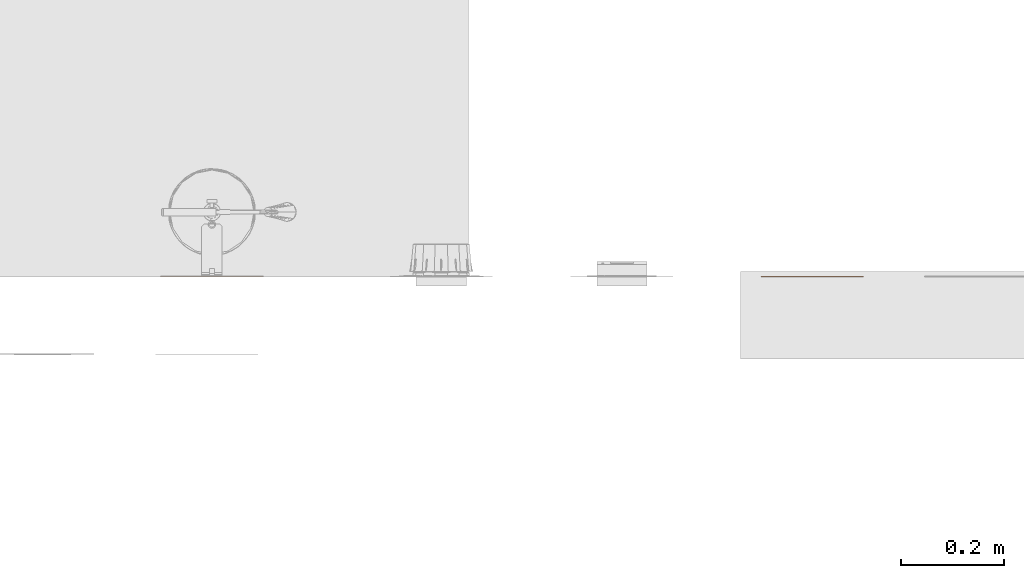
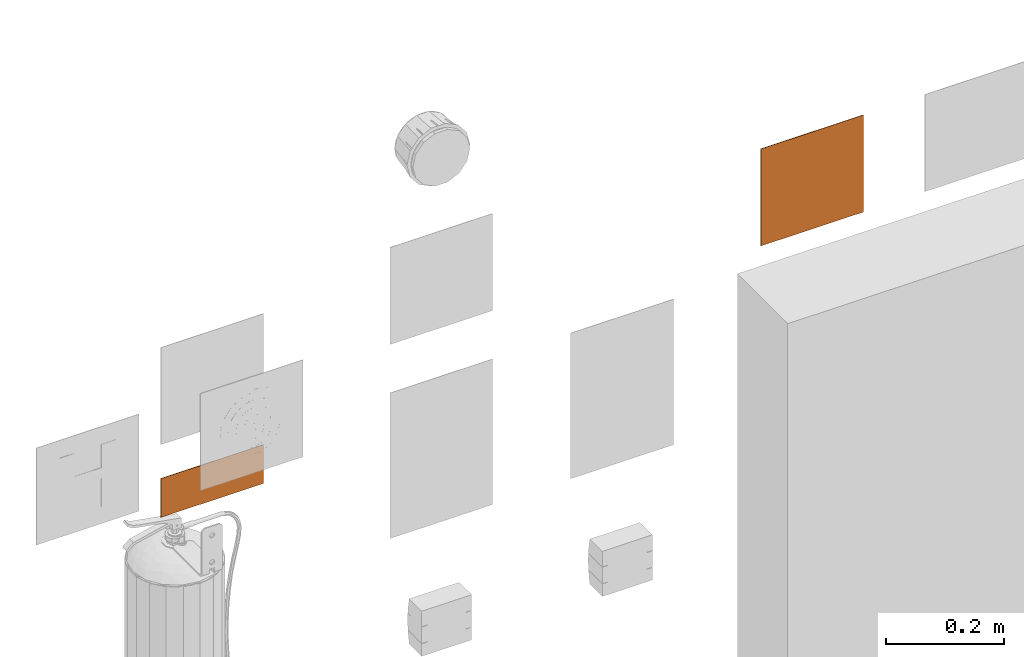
# One storey, part 42 of 119: 2 proxies.
"""IFC2X3 building model written with IfcOpenShell, lengths in metres."""

import ifcopenshell
import ifcopenshell.guid

model = None  # the IFC model being written
_history = None  # IfcOwnerHistory: only IFC2X3 demands one
_inside = {}  # id of a spatial element -> (the spatial element, [elements in it])
_under = {}  # id of a project, library or spatial element -> (it, [spatial elements below it])
_declared = {}  # id of a project -> (the project, [libraries it declares])
_typed = {}  # id of a type object -> (the type object, [elements of that type])
_made_of = {}  # id of a material, layer set ... -> (it, [elements and type objects made of it])


def new_model(schema):
    """Start an empty IFC model of exactly this schema.

    Asked for "IFC4X3", IfcOpenShell would pick the latest addendum, in which some entities
    have other attributes; the version numbers below select the first issue.
    IFC2X3 requires an IfcOwnerHistory on every rooted entity: one is made here for all.
    """
    global model, _history
    if schema == "IFC4X3":
        model = ifcopenshell.file(schema_version=(4, 3, 0, 0))
    else:
        model = ifcopenshell.file(schema=schema)
    _inside.clear()
    _under.clear()
    _declared.clear()
    _typed.clear()
    _made_of.clear()
    _history = None
    if model.schema == "IFC2X3":
        org = make("IfcOrganization", Name="unknown")
        user = make(
            "IfcPersonAndOrganization",
            ThePerson=make("IfcPerson", FamilyName="unknown"),
            TheOrganization=org,
        )
        app = make(
            "IfcApplication",
            ApplicationDeveloper=org,
            Version="unknown",
            ApplicationFullName="unknown",
            ApplicationIdentifier="unknown",
        )
        _history = make(
            "IfcOwnerHistory",
            OwningUser=user,
            OwningApplication=app,
            ChangeAction="ADDED",
            CreationDate=0,
        )
    return model


def make(cls, **values):
    """One entity of the class cls with the attributes given. An attribute that is None is left unset."""
    return model.create_entity(
        cls, **{name: value for name, value in values.items() if value is not None}
    )


def entity(cls, *values):
    """Any entity or typed value of the class cls, its attributes in the order of the schema. None: left unset."""
    e = model.create_entity(cls)
    for i, value in enumerate(values):
        if value is not None:
            e[i] = value
    return e


def rooted(cls, **values):
    """An entity with a GlobalId (a new one), such as an element, a storey or a relation."""
    return make(cls, GlobalId=ifcopenshell.guid.new(), OwnerHistory=_history, **values)


def si_unit(unit_type, name, prefix=None):
    """IfcSIUnit, for example si_unit("LENGTHUNIT", "METRE", prefix="MILLI")."""
    return make("IfcSIUnit", UnitType=unit_type, Prefix=prefix, Name=name)


def converted_unit(unit_type, name, factor, base, dimensions=None, offset=None):
    """IfcConversionBasedUnit, such as the inch: factor (a typed value) times the base unit."""
    return make(
        "IfcConversionBasedUnit"
        if offset is None
        else "IfcConversionBasedUnitWithOffset",
        ConversionOffset=offset,
        Dimensions=None
        if dimensions is None
        else entity("IfcDimensionalExponents", *dimensions),
        UnitType=unit_type,
        Name=name,
        ConversionFactor=make(
            "IfcMeasureWithUnit", ValueComponent=factor, UnitComponent=base
        ),
    )


def derived_unit(unit_type, elements):
    """IfcDerivedUnit: a product of units, each with its exponent."""
    return make(
        "IfcDerivedUnit",
        Elements=[
            make("IfcDerivedUnitElement", Unit=unit, Exponent=power)
            for unit, power in elements
        ],
        UnitType=unit_type,
    )


def assignment(units):
    """IfcUnitAssignment: the units of a project."""
    return None if units is None else make("IfcUnitAssignment", Units=units)


def point(xyz):
    """IfcCartesianPoint."""
    return None if xyz is None else make("IfcCartesianPoint", Coordinates=xyz)


def direction(xyz):
    """IfcDirection."""
    return None if xyz is None else make("IfcDirection", DirectionRatios=xyz)


def frame(location, z_axis=None, x_axis=None):
    """IfcAxis2Placement3D, a coordinate frame: its origin and axes. An axis left out is left unset."""
    return make(
        "IfcAxis2Placement3D",
        Location=point(location),
        Axis=direction(z_axis),
        RefDirection=direction(x_axis),
    )


def frame_2d(location, x_axis=None):
    """IfcAxis2Placement2D, a coordinate frame in the plane: its origin and x axis."""
    return make(
        "IfcAxis2Placement2D", Location=point(location), RefDirection=direction(x_axis)
    )


def origin():
    """The frame at (0, 0, 0) with its axes left unset."""
    return frame((0.0, 0.0, 0.0))


def origin_2d_with_axis():
    """The frame at (0, 0) in the plane with the x axis (1, 0) written out."""
    return frame_2d((0.0, 0.0), x_axis=(1.0, 0.0))


def place(relative_to, where):
    """IfcLocalPlacement: puts the frame where relative to a parent placement (None: the world)."""
    return make(
        "IfcLocalPlacement", PlacementRelTo=relative_to, RelativePlacement=where
    )


def context(
    kind, dimensions, precision=None, world=None, true_north=None, identifier=None
):
    """IfcGeometricRepresentationContext, for example the 3D "Model" context."""
    return make(
        "IfcGeometricRepresentationContext",
        ContextIdentifier=identifier,
        ContextType=kind,
        CoordinateSpaceDimension=dimensions,
        Precision=precision,
        WorldCoordinateSystem=world,
        TrueNorth=true_north,
    )


def subcontext(parent, identifier, kind, view, scale=None):
    """IfcGeometricRepresentationSubContext, for example "Body" below "Model"."""
    return make(
        "IfcGeometricRepresentationSubContext",
        ContextIdentifier=identifier,
        ContextType=kind,
        ParentContext=parent,
        TargetScale=scale,
        TargetView=view,
    )


def project(units=None, contexts=None):
    """IfcProject with its units and contexts."""
    return rooted(
        "IfcProject",
        Name="project",
        RepresentationContexts=contexts,
        UnitsInContext=assignment(units),
    )


def spatial(cls, under=None, at=None, **own):
    """A site, building, storey or space (cls), placed at a placement, below another one or the project."""
    s = rooted(cls, ObjectPlacement=at, **own)
    if under is not None:
        _under.setdefault(under.id(), (under, []))[1].append(s)
    return s


def polyline(points):
    """IfcPolyline through the points."""
    return make("IfcPolyline", Points=[point(p) for p in points])


def circle_curve(where, radius):
    """IfcCircle in the frame where."""
    return make("IfcCircle", Position=where, Radius=radius)


def parameter(value):
    """IfcParameterValue: where a trimmed curve begins or ends, as a parameter of its basis curve."""
    return model.create_entity("IfcParameterValue", value)


def trimmed(basis, trim1, trim2, sense, master):
    """IfcTrimmedCurve: the piece of a basis curve between two trims."""
    return make(
        "IfcTrimmedCurve",
        BasisCurve=basis,
        Trim1=trim1,
        Trim2=trim2,
        SenseAgreement=sense,
        MasterRepresentation=master,
    )


def segment(curve, same_sense, transition):
    """IfcCompositeCurveSegment."""
    return make(
        "IfcCompositeCurveSegment",
        Transition=transition,
        SameSense=same_sense,
        ParentCurve=curve,
    )


def composite_curve(segments, self_intersect=None):
    """IfcCompositeCurve: segments joined end to end."""
    return make("IfcCompositeCurve", Segments=segments, SelfIntersect=self_intersect)


def profile(cls, at=None, kind="AREA", **sizes):
    """A parametric profile (cls). Its sizes go by their IFC names, for example OverallWidth=200.0."""
    return make(cls, ProfileType=kind, Position=at, **sizes)


def rectangle(**sizes):
    """IfcRectangleProfileDef."""
    return profile("IfcRectangleProfileDef", **sizes)


def outline(outer, holes=None, kind="AREA"):
    """IfcArbitraryClosedProfileDef: a profile drawn as a closed curve; with holes, ...WithVoids."""
    if holes is None:
        return make("IfcArbitraryClosedProfileDef", ProfileType=kind, OuterCurve=outer)
    return make(
        "IfcArbitraryProfileDefWithVoids",
        ProfileType=kind,
        OuterCurve=outer,
        InnerCurves=holes,
    )


def extrude(swept, where, along, depth):
    """IfcExtrudedAreaSolid: the profile swept, set in the frame where, extruded along a direction by depth."""
    return make(
        "IfcExtrudedAreaSolid",
        SweptArea=swept,
        Position=where,
        ExtrudedDirection=direction(along),
        Depth=depth,
    )


def shape(context_of_items, identifier, shape_type, items):
    """IfcShapeRepresentation: the items that make up one representation, for example the "Body"."""
    return make(
        "IfcShapeRepresentation",
        ContextOfItems=context_of_items,
        RepresentationIdentifier=identifier,
        RepresentationType=shape_type,
        Items=items,
    )


def source(mapping_origin, context_of_items, identifier, shape_type, items):
    """IfcRepresentationMap: a shape defined once, which mapped items show again and again."""
    return make(
        "IfcRepresentationMap",
        MappingOrigin=mapping_origin,
        MappedRepresentation=shape(context_of_items, identifier, shape_type, items),
    )


def transform(
    local_origin,
    x_axis=None,
    y_axis=None,
    z_axis=None,
    scale=None,
    scale2=None,
    scale3=None,
    uniform=True,
):
    """IfcCartesianTransformationOperator3D, or its non-uniform kind. x_axis, y_axis, z_axis: its Axis1, 2, 3."""
    if uniform:
        return make(
            "IfcCartesianTransformationOperator3D",
            Axis1=direction(x_axis),
            Axis2=direction(y_axis),
            LocalOrigin=point(local_origin),
            Scale=scale,
            Axis3=direction(z_axis),
        )
    return make(
        "IfcCartesianTransformationOperator3DnonUniform",
        Axis1=direction(x_axis),
        Axis2=direction(y_axis),
        LocalOrigin=point(local_origin),
        Scale=scale,
        Axis3=direction(z_axis),
        Scale2=scale2,
        Scale3=scale3,
    )


def mapped(mapping_source, mapping_target):
    """IfcMappedItem: shows the shape of a source again, moved by a transform."""
    return make(
        "IfcMappedItem", MappingSource=mapping_source, MappingTarget=mapping_target
    )


def material(Name=None, Category=None):
    """IfcMaterial."""
    return make("IfcMaterial", Name=Name, Category=Category)


def material_list(materials):
    """IfcMaterialList."""
    return make("IfcMaterialList", Materials=materials)


def made_of(thing, what):
    """Note that an element or type object is made of a material, layer set ...; save() writes the relation."""
    if what is not None:
        _made_of.setdefault(what.id(), (what, []))[1].append(thing)
    return thing


def type_object(cls, material=None, **own):
    """A type object (cls), such as IfcWallType, which elements share."""
    return made_of(rooted(cls, **own), material)


def type_shapes(of_type, sources):
    """Give a type object the sources (RepresentationMaps) that its elements show as mapped items."""
    of_type.RepresentationMaps = sources


def element(
    cls,
    number,
    at=None,
    inside=None,
    cuts=None,
    type_object=None,
    material=None,
    context=None,
    identifier="Body",
    shape_type=None,
    held_by="IfcProductDefinitionShape",
    body=None,
    shapes=None,
    **own,
):
    """One element of the class cls, such as IfcWall. Its Tag is "e" and its number.

    at: its placement. inside: the storey or other place that contains it. cuts: it is an
    opening in that element (IfcRelVoidsElement). A single representation is given by context,
    identifier, shape_type and body (its items); several are given by shapes. held_by: the class
    of the entity that holds the representations. save() writes the other relations.
    """
    e = rooted(cls, Tag="e%d" % number, ObjectPlacement=at, **own)
    if body is not None:
        shapes = [shape(context, identifier, shape_type, body)]
    if shapes is not None:
        e.Representation = make(held_by, Representations=shapes)
    if inside is not None:
        _inside.setdefault(inside.id(), (inside, []))[1].append(e)
    if cuts is not None:
        rooted(
            "IfcRelVoidsElement", RelatingBuildingElement=cuts, RelatedOpeningElement=e
        )
    if type_object is not None:
        _typed.setdefault(type_object.id(), (type_object, []))[1].append(e)
    return made_of(e, material)


def aggregate(whole, parts):
    """IfcRelAggregates: a whole, such as a stair, and the parts it consists of."""
    return rooted("IfcRelAggregates", RelatingObject=whole, RelatedObjects=parts)


def save(model, path):
    """Write the relations noted so far, then the file.

    IfcRelAggregates (storeys below a building ...), IfcRelContainedInSpatialStructure (elements
    in a storey), IfcRelDefinesByType, IfcRelAssociatesMaterial and IfcRelDeclares: one each for
    every whole, place, type object, material and project.
    """
    for whole, parts in _under.values():
        aggregate(whole, parts)
    for where, things in _inside.values():
        rooted(
            "IfcRelContainedInSpatialStructure",
            RelatedElements=things,
            RelatingStructure=where,
        )
    for kind, things in _typed.values():
        rooted("IfcRelDefinesByType", RelatedObjects=things, RelatingType=kind)
    for what, things in _made_of.values():
        rooted("IfcRelAssociatesMaterial", RelatedObjects=things, RelatingMaterial=what)
    for by, libraries in _declared.values():
        rooted("IfcRelDeclares", RelatingContext=by, RelatedDefinitions=libraries)
    model.write(path)


model = new_model("IFC2X3")

# Units and contexts
model_context = context("Model", 3, precision=1e-05, world=origin(), true_north=direction((6.12303176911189e-17, 1.0)))
body_context = subcontext(model_context, "Body", "Model", "MODEL_VIEW")
ifc_project = project(units=[si_unit("LENGTHUNIT", "METRE"), si_unit("AREAUNIT", "SQUARE_METRE"), si_unit("VOLUMEUNIT", "CUBIC_METRE"), converted_unit("PLANEANGLEUNIT", "DEGREE", entity("IfcRatioMeasure", 0.0174532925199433), si_unit("PLANEANGLEUNIT", "RADIAN"), dimensions=[0, 0, 0, 0, 0, 0, 0]), si_unit("MASSUNIT", "GRAM", prefix="KILO"), derived_unit("MASSDENSITYUNIT", [(si_unit("MASSUNIT", "GRAM", prefix="KILO"), 1), (si_unit("LENGTHUNIT", "METRE"), -3)]), derived_unit("MOMENTOFINERTIAUNIT", [(si_unit("LENGTHUNIT", "METRE"), 4)]), si_unit("TIMEUNIT", "SECOND"), si_unit("FREQUENCYUNIT", "HERTZ"), si_unit("THERMODYNAMICTEMPERATUREUNIT", "DEGREE_CELSIUS"), derived_unit("THERMALTRANSMITTANCEUNIT", [(si_unit("MASSUNIT", "GRAM", prefix="KILO"), 1), (si_unit("THERMODYNAMICTEMPERATUREUNIT", "KELVIN"), -1), (si_unit("TIMEUNIT", "SECOND"), -3)]), derived_unit("VOLUMETRICFLOWRATEUNIT", [(si_unit("LENGTHUNIT", "METRE"), 3), (si_unit("TIMEUNIT", "SECOND"), -1)]), si_unit("ELECTRICCURRENTUNIT", "AMPERE"), si_unit("ELECTRICVOLTAGEUNIT", "VOLT"), si_unit("POWERUNIT", "WATT"), si_unit("FORCEUNIT", "NEWTON", prefix="KILO"), si_unit("ILLUMINANCEUNIT", "LUX"), si_unit("LUMINOUSFLUXUNIT", "LUMEN"), si_unit("LUMINOUSINTENSITYUNIT", "CANDELA"), derived_unit("USERDEFINED", [(si_unit("MASSUNIT", "GRAM", prefix="KILO"), -1), (si_unit("LENGTHUNIT", "METRE"), -2), (si_unit("TIMEUNIT", "SECOND"), 3), (si_unit("LUMINOUSFLUXUNIT", "LUMEN"), 1)]), derived_unit("LINEARVELOCITYUNIT", [(si_unit("LENGTHUNIT", "METRE"), 1), (si_unit("TIMEUNIT", "SECOND"), -1)]), si_unit("PRESSUREUNIT", "PASCAL"), derived_unit("USERDEFINED", [(si_unit("LENGTHUNIT", "METRE"), -2), (si_unit("MASSUNIT", "GRAM", prefix="KILO"), 1), (si_unit("TIMEUNIT", "SECOND"), -2)]), derived_unit("LINEARFORCEUNIT", [(si_unit("MASSUNIT", "GRAM", prefix="KILO"), 1), (si_unit("LENGTHUNIT", "METRE"), 1), (si_unit("TIMEUNIT", "SECOND"), -2), (si_unit("LENGTHUNIT", "METRE"), -1)]), derived_unit("PLANARFORCEUNIT", [(si_unit("MASSUNIT", "GRAM", prefix="KILO"), 1), (si_unit("LENGTHUNIT", "METRE"), 1), (si_unit("TIMEUNIT", "SECOND"), -2), (si_unit("LENGTHUNIT", "METRE"), -2)])], contexts=[model_context])

# Site, building, storey
site_placement = place(None, origin())
site = spatial("IfcSite", under=ifc_project, at=site_placement, Name="Default", CompositionType="ELEMENT")
building_placement = place(site_placement, origin())
building = spatial("IfcBuilding", under=site, at=building_placement, CompositionType="ELEMENT")
storey_placement = place(building_placement, origin())
storey = spatial("IfcBuildingStorey", under=building, at=storey_placement, Name="PAV. 01 - TÉRREO", CompositionType="ELEMENT", Elevation=0.0)

# Proxies
ifc_material_1 = material(Name="Plastico Preto")
ifc_material_2 = material(Name="Plastico azul claro")
ifc_material_3 = material(Name="Plastico vermelho")
ifc_material_4 = material(Name="Plastico branco")
ifc_material_5 = material(Name="Plastico Verde")
ifc_material_list_1 = material_list([ifc_material_1, ifc_material_2, ifc_material_3, ifc_material_4, ifc_material_5])
building_element_proxy_type_1 = type_object("IfcBuildingElementProxyType", Name="Sinalização de equipamentos - E05 - Extintor de incêndio - TIPO 2:Placa de extintor - E6-A", PredefinedType="NOTDEFINED", material=ifc_material_1)
shared_shape_1 = source(origin(), body_context, "Body", "SweptSolid", [
    extrude(rectangle(XDim=0.001, YDim=0.0243464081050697, at=origin_2d_with_axis()), frame((0.0791678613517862, -0.0005, 0.0143679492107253), z_axis=(0.0, 0.0, 1.0), x_axis=(0.0, 1.0, 0.0)), (0.0, 0.0, 1.0), 0.0243153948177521),
    extrude(rectangle(XDim=0.001, YDim=0.0243464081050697, at=origin_2d_with_axis()), frame((0.0514092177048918, -0.0005, 0.0143679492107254), z_axis=(0.0, 0.0, 1.0), x_axis=(0.0, 1.0, 0.0)), (0.0, 0.0, 1.0), 0.0243153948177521),
    extrude(rectangle(XDim=0.001, YDim=0.0243464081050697, at=origin_2d_with_axis()), frame((0.023605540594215, -0.0005, 0.0143679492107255), z_axis=(0.0, 0.0, 1.0), x_axis=(0.0, 1.0, 0.0)), (0.0, 0.0, 1.0), 0.0243153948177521),
    extrude(rectangle(XDim=0.001, YDim=0.0243464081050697, at=origin_2d_with_axis()), frame((-0.00415310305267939, -0.0005, 0.0143679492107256), z_axis=(0.0, 0.0, 1.0), x_axis=(0.0, 1.0, 0.0)), (0.0, 0.0, 1.0), 0.0243153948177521),
    extrude(outline(polyline([(-0.0399999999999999, -0.1), (0.0399999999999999, -0.1), (0.0399999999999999, 0.1), (-0.0399999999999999, 0.1), (-0.0399999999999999, -0.1)]), holes=[polyline([(-0.0319999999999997, 0.091), (-0.0150022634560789, 0.091), (-0.0150022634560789, -0.091), (-0.0319999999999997, -0.091), (-0.0319999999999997, 0.091)]), polyline([(-0.010791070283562, 0.091), (0.0319999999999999, 0.091), (0.0319999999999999, 0.0473282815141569), (-0.010791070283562, 0.0473282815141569), (-0.010791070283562, 0.091)]), polyline([(0.00131665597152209, 0.0441091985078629), (0.0256320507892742, 0.0441091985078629), (0.0256320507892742, 0.0197627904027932), (0.00131665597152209, 0.0197627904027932), (0.00131665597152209, 0.0441091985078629)]), polyline([(0.00131665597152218, 0.0163263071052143), (0.0256320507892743, 0.0163263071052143), (0.0256320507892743, -0.00802010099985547), (0.00131665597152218, -0.00802010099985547), (0.00131665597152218, 0.0163263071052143)]), polyline([(0.00131665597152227, -0.0114323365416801), (0.0256320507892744, -0.0114323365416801), (0.0256320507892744, -0.0357787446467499), (0.00131665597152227, -0.0357787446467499), (0.00131665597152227, -0.0114323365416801)]), polyline([(0.00131665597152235, -0.0635824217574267), (0.00131665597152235, -0.039236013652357), (0.0256320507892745, -0.039236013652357), (0.0256320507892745, -0.0635824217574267), (0.00131665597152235, -0.0635824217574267)]), polyline([(0.00131665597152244, -0.0669946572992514), (0.0256320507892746, -0.0669946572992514), (0.0256320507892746, -0.091), (0.00131665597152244, -0.091), (0.00131665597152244, -0.0669946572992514)])]), frame((0.0, -0.001, 0.0399999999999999), z_axis=(0.0, 1.0, 0.0), x_axis=(0.0, 0.0, -1.0)), (0.0, 0.0, 1.0), 0.001),
    extrude(outline(composite_curve([segment(trimmed(circle_curve(frame_2d((-0.00182713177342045, 0.0030692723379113), x_axis=(1.0, 0.0)), 0.00333179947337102), [parameter(180.0)], [parameter(270.0)], True, "PARAMETER"), True, "CONTINUOUS"), segment(polyline([(-0.00182713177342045, -0.000262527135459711), (-0.000430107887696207, -0.000262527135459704)]), True, "CONTINUOUS"), segment(polyline([(-0.000430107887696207, -0.000262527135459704), (-0.000430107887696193, -0.00350797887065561)]), True, "CONTINUOUS"), segment(polyline([(-0.000430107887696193, -0.00350797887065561), (-0.00249820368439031, -0.00350797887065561)]), True, "CONTINUOUS"), segment(polyline([(-0.00249820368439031, -0.00350797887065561), (-0.00742535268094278, 7.18044171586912e-05)]), True, "CONTINUOUS"), segment(polyline([(-0.00742535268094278, 7.18044171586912e-05), (-0.00742535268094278, 0.00166630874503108)]), True, "CONTINUOUS"), segment(polyline([(-0.00742535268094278, 0.00166630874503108), (-0.00871124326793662, 0.00166630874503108)]), True, "CONTINUOUS"), segment(polyline([(-0.00871124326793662, 0.00166630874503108), (-0.00846384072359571, -0.00134355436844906)]), True, "CONTINUOUS"), segment(trimmed(circle_curve(frame_2d((-0.00608099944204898, -0.00114769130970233), x_axis=(1.0, 0.0)), 0.00239087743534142), [parameter(184.698993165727)], [parameter(232.0)], True, "PARAMETER"), True, "CONTINUOUS"), segment(polyline([(-0.00755297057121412, -0.00303172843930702), (-0.0030496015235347, -0.00655014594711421)]), True, "CONTINUOUS"), segment(polyline([(-0.0030496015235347, -0.00655014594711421), (-0.000124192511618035, -0.00655014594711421)]), True, "CONTINUOUS"), segment(polyline([(-0.000124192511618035, -0.00655014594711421), (-0.000124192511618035, -0.00788602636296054)]), True, "CONTINUOUS"), segment(polyline([(-0.000124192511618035, -0.00788602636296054), (0.003207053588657, -0.00788602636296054)]), True, "CONTINUOUS"), segment(polyline([(0.003207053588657, -0.00788602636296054), (0.003207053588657, -0.00698801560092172)]), True, "CONTINUOUS"), segment(polyline([(0.003207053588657, -0.00698801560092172), (0.00540783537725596, -0.00698801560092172)]), True, "CONTINUOUS"), segment(polyline([(0.00540783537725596, -0.00698801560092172), (0.00665542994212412, -0.00574042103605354)]), True, "CONTINUOUS"), segment(polyline([(0.00665542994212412, -0.00574042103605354), (0.00665542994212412, -0.00450724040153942)]), True, "CONTINUOUS"), segment(polyline([(0.00665542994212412, -0.00450724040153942), (0.00491919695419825, -0.00324579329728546)]), True, "CONTINUOUS"), segment(polyline([(0.00491919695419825, -0.00324579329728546), (0.00355615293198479, -0.00324579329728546)]), True, "CONTINUOUS"), segment(polyline([(0.00355615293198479, -0.00324579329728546), (0.00355615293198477, -0.000262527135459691)]), True, "CONTINUOUS"), segment(polyline([(0.00355615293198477, -0.000262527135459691), (0.00500257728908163, -0.000262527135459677)]), True, "CONTINUOUS"), segment(trimmed(circle_curve(frame_2d((0.00500257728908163, 0.00284153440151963), x_axis=(1.0, 0.0)), 0.00310406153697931), [parameter(270.0)], [parameter(1.52666624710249e-13)], True, "PARAMETER"), True, "CONTINUOUS"), segment(polyline([(0.00810663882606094, 0.00284153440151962), (0.0081066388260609, 0.0313568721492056)]), True, "CONTINUOUS"), segment(polyline([(0.0081066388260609, 0.0313568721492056), (-0.00515893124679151, 0.0313568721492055)]), True, "CONTINUOUS"), segment(polyline([(-0.00515893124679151, 0.0313568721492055), (-0.00515893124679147, 0.00306927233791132)]), True, "CONTINUOUS")], self_intersect=False)), frame((-0.0705753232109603, -0.001, 0.0413479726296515), z_axis=(0.0, 1.0, 0.0), x_axis=(1.0, 0.0, 0.0)), (0.0, 0.0, 1.0), 0.001),
    extrude(rectangle(XDim=0.001, YDim=0.0243464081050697, at=origin_2d_with_axis()), frame((-0.0319359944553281, -0.0005, 0.0143679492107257), z_axis=(0.0, 0.0, 1.0), x_axis=(0.0, 1.0, 0.0)), (0.0, 0.0, 1.0), 0.0243153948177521),
    extrude(outline(polyline([(-0.0218358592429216, -0.021395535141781), (0.0218358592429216, -0.021395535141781), (0.0218358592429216, 0.021395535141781), (-0.0218358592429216, 0.021395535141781), (-0.0218358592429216, -0.021395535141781)]), holes=[composite_curve([segment(polyline([(-0.00669545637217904, -0.0194044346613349), (-0.00669545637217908, 0.00911090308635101)]), True, "CONTINUOUS"), segment(trimmed(circle_curve(frame_2d((-0.00359139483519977, 0.00911090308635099), x_axis=(-1.0, 0.0)), 0.00310406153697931), [parameter(270.0)], [parameter(360.0)], True, "PARAMETER"), False, "CONTINUOUS"), segment(polyline([(-0.0035913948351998, 0.0122149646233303), (-0.00214497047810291, 0.0122149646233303)]), True, "CONTINUOUS"), segment(polyline([(-0.00214497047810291, 0.0122149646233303), (-0.00214497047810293, 0.0151982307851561)]), True, "CONTINUOUS"), segment(polyline([(-0.00214497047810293, 0.0151982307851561), (-0.0035080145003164, 0.0151982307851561)]), True, "CONTINUOUS"), segment(polyline([(-0.0035080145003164, 0.0151982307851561), (-0.00524424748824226, 0.01645967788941)]), True, "CONTINUOUS"), segment(polyline([(-0.00524424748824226, 0.01645967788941), (-0.00524424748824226, 0.0176928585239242)]), True, "CONTINUOUS"), segment(polyline([(-0.00524424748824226, 0.0176928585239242), (-0.0039966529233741, 0.0189404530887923)]), True, "CONTINUOUS"), segment(polyline([(-0.0039966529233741, 0.0189404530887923), (-0.00179587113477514, 0.0189404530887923)]), True, "CONTINUOUS"), segment(polyline([(-0.00179587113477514, 0.0189404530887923), (-0.00179587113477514, 0.0198384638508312)]), True, "CONTINUOUS"), segment(polyline([(-0.00179587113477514, 0.0198384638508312), (0.00153537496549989, 0.0198384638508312)]), True, "CONTINUOUS"), segment(polyline([(0.00153537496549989, 0.0198384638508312), (0.00153537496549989, 0.0185025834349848)]), True, "CONTINUOUS"), segment(polyline([(0.00153537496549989, 0.0185025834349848), (0.00446078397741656, 0.0185025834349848)]), True, "CONTINUOUS"), segment(polyline([(0.00446078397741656, 0.0185025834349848), (0.00896415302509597, 0.0149841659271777)]), True, "CONTINUOUS"), segment(trimmed(circle_curve(frame_2d((0.00749218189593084, 0.0131001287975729), x_axis=(-1.0, 0.0)), 0.00239087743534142), [parameter(184.698993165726)], [parameter(231.999999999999)], True, "PARAMETER"), False, "CONTINUOUS"), segment(polyline([(0.00987502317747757, 0.0132959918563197), (0.0101224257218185, 0.0102861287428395)]), True, "CONTINUOUS"), segment(polyline([(0.0101224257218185, 0.0102861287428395), (0.00883653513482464, 0.0102861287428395)]), True, "CONTINUOUS"), segment(polyline([(0.00883653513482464, 0.0102861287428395), (0.00883653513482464, 0.0118806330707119)]), True, "CONTINUOUS"), segment(polyline([(0.00883653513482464, 0.0118806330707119), (0.00390938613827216, 0.0154604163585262)]), True, "CONTINUOUS"), segment(polyline([(0.00390938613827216, 0.0154604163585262), (0.00184129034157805, 0.0154604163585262)]), True, "CONTINUOUS"), segment(polyline([(0.00184129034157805, 0.0154604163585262), (0.00184129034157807, 0.0122149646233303)]), True, "CONTINUOUS"), segment(polyline([(0.00184129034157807, 0.0122149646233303), (0.00323831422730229, 0.0122149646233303)]), True, "CONTINUOUS"), segment(trimmed(circle_curve(frame_2d((0.00323831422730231, 0.00888316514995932), x_axis=(-1.0, 0.0)), 0.00333179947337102), [parameter(180.0)], [parameter(270.0)], True, "PARAMETER"), False, "CONTINUOUS"), segment(polyline([(0.00657011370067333, 0.00888316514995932), (0.00657011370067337, -0.0194044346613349)]), True, "CONTINUOUS"), segment(polyline([(0.00657011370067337, -0.0194044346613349), (-0.00669545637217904, -0.0194044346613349)]), True, "CONTINUOUS")], self_intersect=False)]), frame((-0.0691641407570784, -0.001, 0.0293955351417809), z_axis=(0.0, 1.0, 0.0), x_axis=(-1.0, 0.0, 0.0)), (0.0, 0.0, 1.0), 0.001),
    extrude(rectangle(XDim=0.001, YDim=0.182, at=origin_2d_with_axis()), frame((0.0, -0.0005, 0.0550022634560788), z_axis=(0.0, 0.0, 1.0), x_axis=(0.0, 1.0, 0.0)), (0.0, 0.0, 1.0), 0.0169977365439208),
])
type_shapes(building_element_proxy_type_1, [shared_shape_1])
proxy_1_placement = place(storey_placement, frame((26.0441407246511, -5.41661806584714, 1.65), z_axis=(0.0, 0.0, 1.0), x_axis=(-1.0, 0.0, 0.0)))
element("IfcBuildingElementProxy", 1, at=proxy_1_placement, inside=storey, type_object=building_element_proxy_type_1, material=ifc_material_list_1, Name="Sinalização de equipamentos - E05 - Extintor de incêndio - TIPO 2:Placa de extintor - E6-A", ObjectType="Sinalização de equipamentos - E05 - Extintor de incêndio - TIPO 2:Placa de extintor - E6-A", context=body_context, shape_type="MappedRepresentation", body=[
    mapped(shared_shape_1, transform((0.0, 0.0, 0.0), scale=1.0)),
])
ifc_material_list_2 = material_list([ifc_material_4, ifc_material_3])
building_element_proxy_type_2 = type_object("IfcBuildingElementProxyType", Name="Sinalização de equipamentos - E07 - Abrigo de mangueira e hidrante:Distância 08m", PredefinedType="NOTDEFINED", material=ifc_material_4)
shared_shape_2 = source(origin(), body_context, "Body", "SweptSolid", [
    extrude(outline(polyline([(-0.00690786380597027, -0.0122995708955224), (0.00711825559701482, -0.0122995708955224), (0.00711825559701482, -0.00743718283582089), (0.00262989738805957, -0.00743718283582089), (0.00596944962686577, 0.0271739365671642), (-0.00581249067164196, 0.0271739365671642), (-0.00320763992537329, -0.00743718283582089), (-0.00690786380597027, -0.00743718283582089), (-0.00690786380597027, -0.0122995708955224)])), frame((0.0421885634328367, -0.0011, 1.96326280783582), z_axis=(0.0, 1.0, 0.0), x_axis=(0.0, 0.0, -1.0)), (0.0, 0.0, 1.0), 0.0011),
    extrude(outline(polyline([(-0.0100749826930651, 0.0564373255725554), (0.000130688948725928, 0.0564373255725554), (0.000130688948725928, 0.0615935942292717), (0.0111390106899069, 0.0603672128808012), (0.0215236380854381, 0.0569157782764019), (0.0310659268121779, 0.0514698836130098), (0.039547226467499, 0.044260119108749), (0.0467232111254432, 0.0355044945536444), (0.0522652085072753, 0.0253796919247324), (0.0558272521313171, 0.0140539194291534), (0.0570633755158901, 0.00169538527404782), (0.0559544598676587, -0.0103529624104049), (0.0527167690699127, -0.021677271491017), (0.0475402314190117, -0.0320063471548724), (0.0406147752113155, -0.0410689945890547), (0.0321303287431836, -0.0485940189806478), (0.0222768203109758, -0.054310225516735), (0.0112441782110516, -0.0579464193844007), (-0.000777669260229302, -0.0592314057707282), (-0.0112144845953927, -0.0581339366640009), (-0.0207847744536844, -0.0549992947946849), (-0.0293267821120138, -0.0500696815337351), (-0.0366787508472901, -0.0435872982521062), (-0.0426789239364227, -0.0357943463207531), (-0.0471655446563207, -0.0269330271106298), (-0.0499768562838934, -0.0172455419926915), (-0.0509511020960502, -0.00697409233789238), (-0.0503267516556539, 0.00214397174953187), (-0.0485509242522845, 0.0101046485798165), (-0.0457766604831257, 0.0170464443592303), (-0.042157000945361, 0.0231078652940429), (-0.0378449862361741, 0.0284274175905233), (-0.0329915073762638, 0.0331411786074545), (-0.0276526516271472, 0.0372781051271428), (-0.0217544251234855, 0.0407201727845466), (-0.0152134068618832, 0.0433387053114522), (-0.00794617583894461, 0.0450050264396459), (0.000130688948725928, 0.0455904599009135), (0.0081536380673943, 0.04465447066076), (0.0157133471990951, 0.0420982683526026), (0.0226512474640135, 0.0380908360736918), (0.0288087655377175, 0.0328011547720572), (0.034008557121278, 0.0263891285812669), (0.0380116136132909, 0.0189848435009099), (0.0405662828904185, 0.0107122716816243), (0.041420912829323, 0.00169538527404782), (0.0406481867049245, -0.00714065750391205), (0.0383124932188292, -0.015453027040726), (0.0345521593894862, -0.0230422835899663), (0.0295055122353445, -0.0297089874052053), (0.023310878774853, -0.0352536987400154), (0.0161065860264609, -0.0394769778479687), (0.0080309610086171, -0.0421793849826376), (-0.000777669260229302, -0.043161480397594), (-0.00799025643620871, -0.0423890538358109), (-0.014601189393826, -0.0402096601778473), (-0.0204989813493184, -0.0367909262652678), (-0.0255721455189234, -0.0323004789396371), (-0.0297091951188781, -0.0269059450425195), (-0.03279864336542, -0.0207749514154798), (-0.0347290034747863, -0.0140751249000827), (-0.0353887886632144, -0.00697409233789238), (-0.0349404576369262, -0.000650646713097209), (-0.0336953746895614, 0.00486808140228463), (-0.0317594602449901, 0.00967841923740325), (-0.0292386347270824, 0.0138766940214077), (-0.0262388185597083, 0.0175592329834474), (-0.0228644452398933, 0.0208206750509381), (-0.0191543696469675, 0.02368119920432), (-0.015057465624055, 0.0260588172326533), (-0.0105160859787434, 0.02786413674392), (-0.00547258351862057, 0.0290077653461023), (0.000130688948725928, 0.0294003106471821), (0.00520279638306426, 0.0288165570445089), (0.00998368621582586, 0.027208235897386), (0.0143729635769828, 0.0246820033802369), (0.018270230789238, 0.0213445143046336), (0.0215632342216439, 0.0172966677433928), (0.0241007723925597, 0.012620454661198), (0.02572365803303, 0.00739398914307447), (0.0262727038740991, 0.00169538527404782), (0.0257957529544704, -0.0039920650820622), (0.0243118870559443, -0.00934613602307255), (0.0219096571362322, -0.0142381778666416), (0.0186776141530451, -0.0185395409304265), (0.0147043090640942, -0.0221215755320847), (0.0100782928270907, -0.0248556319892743), (0.00488811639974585, -0.0266130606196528), (-0.000777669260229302, -0.0272652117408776), (-0.00480591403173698, -0.0268185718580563), (-0.00849506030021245, -0.0255870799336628), (-0.011783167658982, -0.0236646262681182), (-0.014608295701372, -0.0211451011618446), (-0.0169085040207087, -0.0181223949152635), (-0.0186218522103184, -0.0146903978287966), (-0.0196863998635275, -0.0109430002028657), (-0.0200402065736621, -0.00697409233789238), (-0.0197070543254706, -0.00307612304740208), (-0.0188559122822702, 0.000297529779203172), (-0.0175578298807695, 0.00320533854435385), (-0.0158838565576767, 0.00570577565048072), (-0.0139050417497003, 0.00785731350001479), (-0.0116800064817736, 0.00970541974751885), (-0.00919827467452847, 0.0112232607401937), (-0.00642549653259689, 0.0123590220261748), (-0.00332729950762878, 0.013060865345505), (0.000130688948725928, 0.013276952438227), (0.00313917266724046, 0.0124353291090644), (0.00564156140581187, 0.0111582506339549), (0.00763785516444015, 0.00944571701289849), (0.0091280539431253, 0.00729772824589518), (0.0101121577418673, 0.00471428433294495), (0.0105901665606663, 0.00169538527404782), (0.0104396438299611, -0.00075805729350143), (0.00985235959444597, -0.00307766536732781), (0.0088652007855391, -0.00520719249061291), (0.00751505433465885, -0.00709039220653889), (0.00583880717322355, -0.00867101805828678), (0.00387334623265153, -0.00989282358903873), (0.00165555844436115, -0.0106995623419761), (-0.000777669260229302, -0.0110349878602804), (-0.00167408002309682, -0.0108859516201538), (-0.00245613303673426, -0.0105863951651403), (-0.00312066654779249, -0.0101578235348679), (-0.00366451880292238, -0.00962174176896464), (-0.00408452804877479, -0.00899965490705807), (-0.00437753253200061, -0.00831306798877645), (-0.00454037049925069, -0.00758348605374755), (-0.00456988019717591, -0.00683241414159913), (-0.00446289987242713, -0.00608135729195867), (-0.00421626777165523, -0.00535182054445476), (-0.00382682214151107, -0.00466530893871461), (-0.00329140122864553, -0.00404332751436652), (-0.00260684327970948, -0.00350738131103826), (-0.00176998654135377, -0.00307897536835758), (-0.000777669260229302, -0.00277961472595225), (-0.000777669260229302, 0.00518187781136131), (-0.00423070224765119, 0.0045419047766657), (-0.00707907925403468, 0.00334752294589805), (-0.00932280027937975, 0.00159873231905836), (-0.0109618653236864, -0.00070446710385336), (-0.0119962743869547, -0.00356207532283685), (-0.0124260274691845, -0.00697409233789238), (-0.012188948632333, -0.00934499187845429), (-0.0115283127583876, -0.0115788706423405), (-0.0104817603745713, -0.0136199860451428), (-0.00908693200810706, -0.0154125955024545), (-0.00738146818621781, -0.0169009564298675), (-0.00540300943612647, -0.018029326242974), (-0.003189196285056, -0.018741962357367), (-0.000777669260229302, -0.0189831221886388), (0.00328262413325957, -0.0185300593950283), (0.00700496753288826, -0.0172840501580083), (0.0103256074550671, -0.0153370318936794), (0.0131807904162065, -0.0127809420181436), (0.0155067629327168, -0.00970771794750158), (0.0172397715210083, -0.00620929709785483), (0.0183160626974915, -0.00237761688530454), (0.0186718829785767, 0.00169538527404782), (0.0182922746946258, 0.00574957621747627), (0.0171479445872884, 0.00946273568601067), (0.0153522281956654, 0.0127723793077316), (0.0130184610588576, 0.0156160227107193), (0.0102540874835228, 0.0179361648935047), (0.00713791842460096, 0.0196995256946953), (0.0037400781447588, 0.0208801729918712), (0.000130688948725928, 0.021452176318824), (-0.004291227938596, 0.0211836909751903), (-0.00827718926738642, 0.0203187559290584), (-0.0118720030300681, 0.0189282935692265), (-0.0151204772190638, 0.0170832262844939), (-0.0180674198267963, 0.014854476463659), (-0.0207525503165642, 0.012307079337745), (-0.0231453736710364, 0.00942483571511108), (-0.0251642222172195, 0.00613234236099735), (-0.0267262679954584, 0.00235285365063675), (-0.027748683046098, -0.00199037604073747), (-0.028148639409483, -0.00697409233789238), (-0.0275827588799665, -0.0125340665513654), (-0.0260239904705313, -0.0177709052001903), (-0.0235608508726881, -0.0225540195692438), (-0.0202818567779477, -0.026752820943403), (-0.0162755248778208, -0.0302367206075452), (-0.0116303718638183, -0.0328751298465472), (-0.00643491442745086, -0.0345374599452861), (-0.000777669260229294, -0.0350931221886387), (0.00649225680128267, -0.0343265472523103), (0.0131661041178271, -0.0321374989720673), (0.0191288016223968, -0.028689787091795), (0.0242652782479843, -0.0241472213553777), (0.0284604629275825, -0.0186736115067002), (0.031599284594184, -0.0124327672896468), (0.0335666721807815, -0.00558849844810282), (0.0342475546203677, 0.00169538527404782), (0.0334944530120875, 0.00908531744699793), (0.0313514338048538, 0.0158549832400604), (0.0280255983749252, 0.0219041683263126), (0.0237240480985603, 0.0271326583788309), (0.0186435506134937, 0.0314351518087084), (0.0129304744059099, 0.0346815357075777), (0.00671584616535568, 0.0367341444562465), (0.00013068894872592, 0.0374553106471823), (-0.00671911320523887, 0.0369809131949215), (-0.012885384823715, 0.0355878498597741), (-0.0184385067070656, 0.0333854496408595), (-0.0234488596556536, 0.030483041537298), (-0.0279868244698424, 0.0269899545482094), (-0.0321148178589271, 0.0230064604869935), (-0.0357853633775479, 0.0185078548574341), (-0.038870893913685, 0.0133783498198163), (-0.0412420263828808, 0.00750009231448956), (-0.0427693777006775, 0.000755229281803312), (-0.0433235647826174, -0.00697409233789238), (-0.0424899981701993, -0.0156746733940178), (-0.0401006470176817, -0.0238790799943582), (-0.0362927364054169, -0.0313822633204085), (-0.0312034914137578, -0.0379791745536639), (-0.0249701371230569, -0.0434647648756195), (-0.0177298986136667, -0.0476339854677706), (-0.00962000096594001, -0.0502817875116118), (-0.000777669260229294, -0.0512031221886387), (0.00967260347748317, -0.0500981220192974), (0.0192654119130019, -0.046948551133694), (0.0278354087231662, -0.0419899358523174), (0.0352172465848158, -0.0354578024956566), (0.0412455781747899, -0.0275876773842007), (0.045755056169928, -0.0186150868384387), (0.0485803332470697, -0.0087755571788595), (0.0495560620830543, 0.00169538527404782), (0.0484795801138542, 0.0124199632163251), (0.0453849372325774, 0.0222475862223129), (0.0405724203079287, 0.0310323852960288), (0.0343423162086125, 0.0386284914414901), (0.0269799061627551, 0.0448826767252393), (0.0186972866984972, 0.0496058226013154), (0.00968427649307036, 0.052597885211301), (0.000130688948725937, 0.0536588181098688), (-0.00918927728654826, 0.0529865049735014), (-0.0175754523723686, 0.0510666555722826), (-0.0251240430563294, 0.0480477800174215), (-0.0319312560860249, 0.0440783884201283), (-0.0380932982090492, 0.0393069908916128), (-0.0436955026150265, 0.0338698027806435), (-0.048673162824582, 0.0277333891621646), (-0.0528522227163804, 0.0207406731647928), (-0.0560561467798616, 0.012731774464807), (-0.0581083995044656, 0.00354681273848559), (-0.0588324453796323, -0.00697409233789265), (-0.0577069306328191, -0.018861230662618), (-0.0544553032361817, -0.0300729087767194), (-0.0492647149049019, -0.0403288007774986), (-0.0423223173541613, -0.0493485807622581), (-0.033815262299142, -0.0568519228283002), (-0.0239307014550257, -0.0625585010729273), (-0.0128557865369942, -0.0661879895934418), (-0.000777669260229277, -0.0674600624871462), (0.0128900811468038, -0.0660204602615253), (0.0254375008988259, -0.0619064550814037), (0.0366482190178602, -0.0554259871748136), (0.0463058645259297, -0.0468869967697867), (0.0541940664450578, -0.0365974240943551), (0.0600964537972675, -0.0248652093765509), (0.063796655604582, -0.0119982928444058), (0.0650783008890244, 0.00169538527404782), (0.0636910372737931, 0.015779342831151), (0.0597178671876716, 0.0287040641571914), (0.0534946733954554, 0.040257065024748), (0.0453573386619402, 0.0502258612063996), (0.0356383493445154, 0.0583943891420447), (0.0246536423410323, 0.0645291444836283), (0.0127141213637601, 0.0683913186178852), (0.000130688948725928, 0.0697421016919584), (0.000130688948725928, 0.074791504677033), (-0.0100749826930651, 0.074791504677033), (-0.0100749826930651, 0.0564373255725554)])), frame((0.00353703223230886, -0.00109999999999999, 1.89754319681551), z_axis=(0.0, 1.0, 0.0), x_axis=(-1.0, 0.0, 0.0)), (0.0, 0.0, 1.0), 0.0011),
    extrude(rectangle(XDim=0.001, YDim=0.179, at=origin_2d_with_axis()), frame((0.0, -0.0005, 1.8105), z_axis=(0.0, 0.0, 1.0), x_axis=(0.0, 1.0, 0.0)), (0.0, 0.0, 1.0), 0.179000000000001),
    extrude(outline(polyline([(-0.100000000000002, -0.1), (0.100000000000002, -0.1), (0.100000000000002, 0.1), (-0.100000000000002, 0.1), (-0.100000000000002, -0.1)]), holes=[polyline([(-0.0895000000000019, -0.0895000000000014), (-0.0895000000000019, 0.0894999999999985), (0.0894999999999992, 0.0894999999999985), (0.0894999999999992, -0.0895000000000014), (-0.0895000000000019, -0.0895000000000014)])]), frame((0.0, -0.001, 1.9), z_axis=(0.0, 1.0, 0.0), x_axis=(0.0, 0.0, -1.0)), (0.0, 0.0, 1.0), 0.001),
])
type_shapes(building_element_proxy_type_2, [shared_shape_2])
proxy_2_placement = place(storey_placement, frame((27.2140605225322, -5.41661806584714, 0.0), z_axis=(0.0, 0.0, 1.0), x_axis=(-1.0, 0.0, 0.0)))
element("IfcBuildingElementProxy", 2, at=proxy_2_placement, inside=storey, type_object=building_element_proxy_type_2, material=ifc_material_list_2, Name="Sinalização de equipamentos - E07 - Abrigo de mangueira e hidrante:Distância 08m", ObjectType="Sinalização de equipamentos - E07 - Abrigo de mangueira e hidrante:Distância 08m", context=body_context, shape_type="MappedRepresentation", body=[
    mapped(shared_shape_2, transform((0.0, 0.0, 0.0), scale=1.0)),
])

save(model, "model.ifc")
